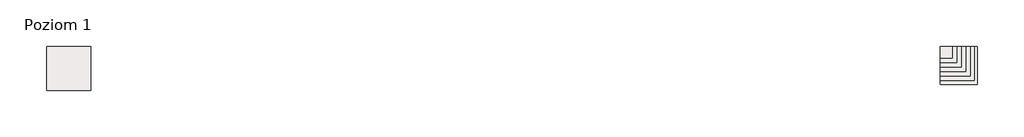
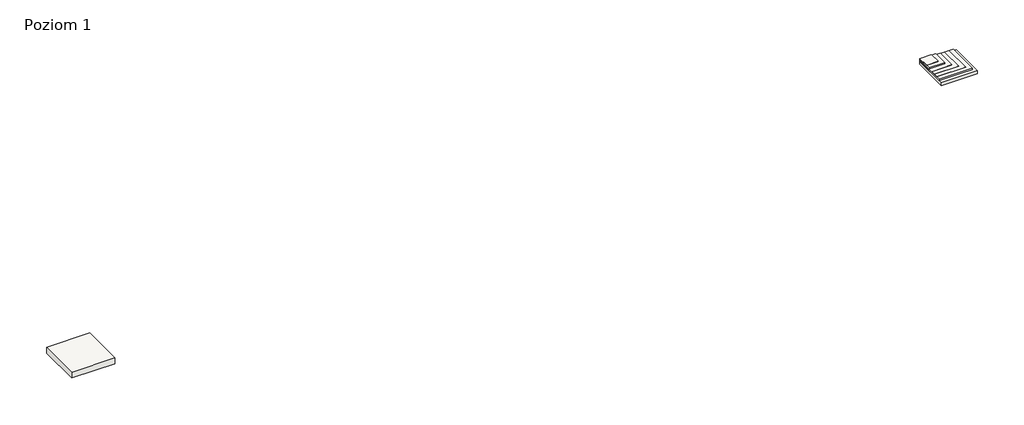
# One storey: 2 roofs.
"""IFC4 building model written with IfcOpenShell, lengths in millimetres."""

from ifc_helpers import new_model, si_unit, frame, origin, origin_with_axes, place, context, project, spatial, polyline, outline, extrude, element, save

model = new_model("IFC4")

# Units and contexts
model_context = context("Model", 3, world=origin())
ifc_project = project(units=[si_unit("LENGTHUNIT", "METRE", prefix="MILLI")], contexts=[model_context])

# Site, building, storey
site = spatial("IfcSite", under=ifc_project)
building = spatial("IfcBuilding", under=site)
storey = spatial("IfcBuildingStorey", under=building, Name="Poziom 1", Elevation=0.0)

# Roofs
placement = place(None, origin())
element("IfcRoof", 1, ObjectType="Dachy zielone w uprawie ekstensywnej – Atus CRICKET 20/1000 + 100 - układ tradycyjny", at=placement, inside=storey, context=model_context, shape_type="SweptSolid", body=[
    extrude(outline(polyline([(-16494.8444454, -525.5470033), (-13494.8444454, -525.5470033), (-13494.8444454, -3525.5470033), (-16494.8444454, -3525.5470033), (-16494.8444454, -525.5470033)])), origin_with_axes(), (0.0, 0.0, 1.0), 430.0),
])
element("IfcRoof", 2, ObjectType="Dachy zielone w uprawie ekstensywnej – Atus CRICKET 20/1000 + 100 - układ tradycyjny", at=placement, inside=storey, context=model_context, shape_type="SweptSolid", body=[
    extrude(outline(polyline([(43905.1555546, -525.5470033), (44705.1555546, -525.5470033), (44705.1555546, -1325.5470033), (43905.1555546, -1325.5470033), (43905.1555546, -525.5470033)])), frame((0.0, 0.0, 405.0), z_axis=(0.0, 0.0, 1.0), x_axis=(1.0, 0.0, 0.0)), (0.0, 0.0, 1.0), 25.0),
    extrude(outline(polyline([(43905.1555546, -525.5470033), (45005.1555546, -525.5470033), (45005.1555546, -1625.5470033), (43905.1555546, -1625.5470033), (43905.1555546, -525.5470033)])), frame((0.0, 0.0, 325.0), z_axis=(0.0, 0.0, 1.0), x_axis=(1.0, 0.0, 0.0)), (0.0, 0.0, 1.0), 80.0),
    extrude(outline(polyline([(43905.1555546, -525.5470033), (45305.1555546, -525.5470033), (45305.1555546, -1925.5470033), (43905.1555546, -1925.5470033), (43905.1555546, -525.5470033)])), frame((0.0, 0.0, 305.0), z_axis=(0.0, 0.0, 1.0), x_axis=(1.0, 0.0, 0.0)), (0.0, 0.0, 1.0), 20.0),
    extrude(outline(polyline([(43905.1555546, -525.5470033), (45605.1555546, -525.5470033), (45605.1555546, -2225.5470033), (43905.1555546, -2225.5470033), (43905.1555546, -525.5470033)])), frame((0.0, 0.0, 302.0), z_axis=(0.0, 0.0, 1.0), x_axis=(1.0, 0.0, 0.0)), (0.0, 0.0, 1.0), 3.0),
    extrude(outline(polyline([(43905.1555546, -525.5470033), (45905.1555546, -525.5470033), (45905.1555546, -2525.5470033), (43905.1555546, -2525.5470033), (43905.1555546, -525.5470033)])), frame((0.0, 0.0, 300.0), z_axis=(0.0, 0.0, 1.0), x_axis=(1.0, 0.0, 0.0)), (0.0, 0.0, 1.0), 2.0),
    extrude(outline(polyline([(43905.1555546, -525.5470033), (46205.1555546, -525.5470033), (46205.1555546, -2825.5470033), (43905.1555546, -2825.5470033), (43905.1555546, -525.5470033)])), frame((0.0, 0.0, 200.0), z_axis=(0.0, 0.0, 1.0), x_axis=(1.0, 0.0, 0.0)), (0.0, 0.0, 1.0), 100.0),
    extrude(outline(polyline([(43905.1555546, -525.5470033), (46405.1555546, -525.5470033), (46405.1555546, -3090.4398026), (43905.1555546, -3090.4398026), (43905.1555546, -525.5470033)])), origin_with_axes(), (0.0, 0.0, 1.0), 200.0),
])

save(model, "model.ifc")
